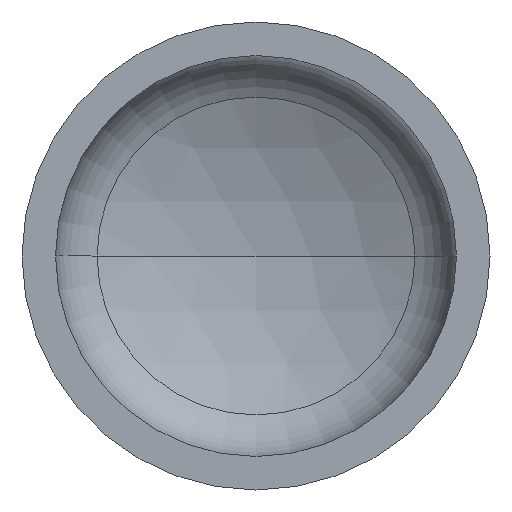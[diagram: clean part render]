
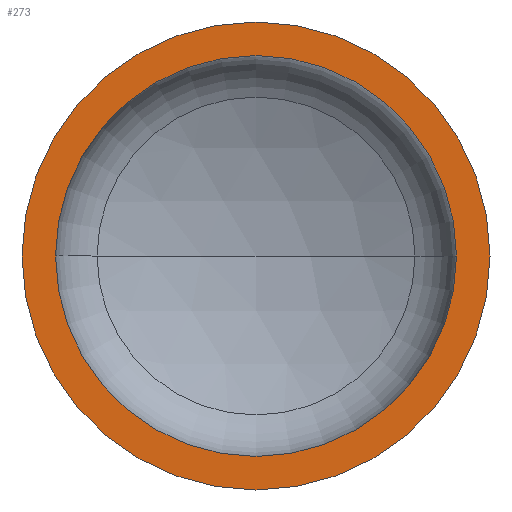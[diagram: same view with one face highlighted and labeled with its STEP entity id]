
A CAD part, front view. The second image highlights one B-rep face of the part: STEP entity #273.
In plain terms, the highlighted planar face has unit normal (0, -1, 0).
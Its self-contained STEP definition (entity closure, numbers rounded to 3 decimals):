
#6 = ORIENTED_EDGE ( 'NONE', *, *, #229, .F. ) ;
#10 = CIRCLE ( 'NONE', #213, 514. ) ;
#22 = VERTEX_POINT ( 'NONE', #220 ) ;
#31 = PLANE ( 'NONE',  #387 ) ;
#33 = DIRECTION ( 'NONE',  ( 1., 0., 0. ) ) ;
#47 = ORIENTED_EDGE ( 'NONE', *, *, #366, .F. ) ;
#59 = VERTEX_POINT ( 'NONE', #253 ) ;
#80 = ORIENTED_EDGE ( 'NONE', *, *, #170, .T. ) ;
#91 = CIRCLE ( 'NONE', #260, 514. ) ;
#94 = CARTESIAN_POINT ( 'NONE',  ( -600., 0., 0. ) ) ;
#97 = EDGE_LOOP ( 'NONE', ( #80, #237 ) ) ;
#100 = DIRECTION ( 'NONE',  ( -1., 0., 0. ) ) ;
#107 = EDGE_LOOP ( 'NONE', ( #6, #47 ) ) ;
#114 = VERTEX_POINT ( 'NONE', #165 ) ;
#134 = CARTESIAN_POINT ( 'NONE',  ( 514., 0., 0. ) ) ;
#143 = VERTEX_POINT ( 'NONE', #134 ) ;
#145 = CARTESIAN_POINT ( 'NONE',  ( 0., 0., 0. ) ) ;
#156 = DIRECTION ( 'NONE',  ( 0., -1., 0. ) ) ;
#165 = CARTESIAN_POINT ( 'NONE',  ( 600., 0., 0. ) ) ;
#170 = EDGE_CURVE ( 'NONE', #114, #59, #340, .T. ) ;
#178 = DIRECTION ( 'NONE',  ( 1., 0., 0. ) ) ;
#180 = CIRCLE ( 'NONE', #345, 600. ) ;
#199 = AXIS2_PLACEMENT_3D ( 'NONE', #361, #156, #315 ) ;
#213 = AXIS2_PLACEMENT_3D ( 'NONE', #145, #337, #178 ) ;
#220 = CARTESIAN_POINT ( 'NONE',  ( -514., 0., 0. ) ) ;
#228 = DIRECTION ( 'NONE',  ( 0., -1., 0. ) ) ;
#229 = EDGE_CURVE ( 'NONE', #143, #22, #91, .T. ) ;
#237 = ORIENTED_EDGE ( 'NONE', *, *, #268, .T. ) ;
#253 = CARTESIAN_POINT ( 'NONE',  ( -600., 0., 0. ) ) ;
#258 = DIRECTION ( 'NONE',  ( 0., -1., 0. ) ) ;
#260 = AXIS2_PLACEMENT_3D ( 'NONE', #374, #228, #398 ) ;
#268 = EDGE_CURVE ( 'NONE', #59, #114, #180, .T. ) ;
#273 = ADVANCED_FACE ( 'NONE', ( #389, #319 ), #31, .F. ) ;
#283 = DIRECTION ( 'NONE',  ( 0., 1., 0. ) ) ;
#315 = DIRECTION ( 'NONE',  ( 1., 0., 0. ) ) ;
#319 = FACE_OUTER_BOUND ( 'NONE', #97, .T. ) ;
#337 = DIRECTION ( 'NONE',  ( 0., -1., 0. ) ) ;
#340 = CIRCLE ( 'NONE', #199, 600. ) ;
#345 = AXIS2_PLACEMENT_3D ( 'NONE', #399, #258, #33 ) ;
#361 = CARTESIAN_POINT ( 'NONE',  ( 0., 0., 0. ) ) ;
#366 = EDGE_CURVE ( 'NONE', #22, #143, #10, .T. ) ;
#374 = CARTESIAN_POINT ( 'NONE',  ( 0., 0., 0. ) ) ;
#387 = AXIS2_PLACEMENT_3D ( 'NONE', #94, #283, #100 ) ;
#389 = FACE_BOUND ( 'NONE', #107, .T. ) ;
#398 = DIRECTION ( 'NONE',  ( 1., 0., 0. ) ) ;
#399 = CARTESIAN_POINT ( 'NONE',  ( 0., 0., 0. ) ) ;
